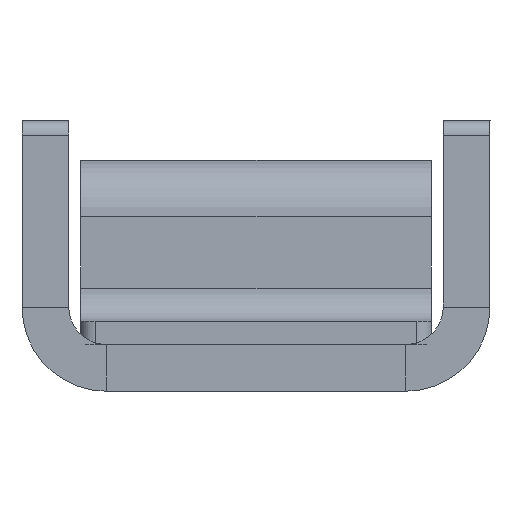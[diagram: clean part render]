
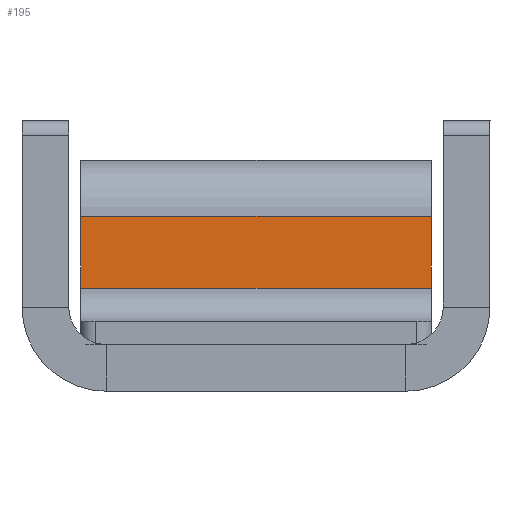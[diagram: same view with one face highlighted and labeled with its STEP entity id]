
A CAD part, left-side view. The second image highlights one B-rep face of the part: STEP entity #195.
In plain terms, the highlighted planar face has unit normal (-1, 0, 0).
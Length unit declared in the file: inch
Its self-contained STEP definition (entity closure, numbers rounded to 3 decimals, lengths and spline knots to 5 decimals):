
#3 = EDGE_LOOP ( 'NONE', ( #1297, #2069, #736, #1453 ) ) ;
#6 = VERTEX_POINT ( 'NONE', #2021 ) ;
#120 = DIRECTION ( 'NONE',  ( 0., 0., -1. ) ) ;
#134 = VECTOR ( 'NONE', #120, 39.37008 ) ;
#195 = ADVANCED_FACE ( 'NONE', ( #288 ), #245, .F. ) ;
#245 = PLANE ( 'NONE',  #333 ) ;
#288 = FACE_OUTER_BOUND ( 'NONE', #3, .T. ) ;
#333 = AXIS2_PLACEMENT_3D ( 'NONE', #780, #2075, #976 ) ;
#346 = EDGE_CURVE ( 'NONE', #1038, #517, #875, .T. ) ;
#489 = CARTESIAN_POINT ( 'NONE',  ( -2.735, 0.375, 0.27375 ) ) ;
#517 = VERTEX_POINT ( 'NONE', #537 ) ;
#537 = CARTESIAN_POINT ( 'NONE',  ( -2.735, 0.375, 0.12 ) ) ;
#639 = CARTESIAN_POINT ( 'NONE',  ( -2.735, -0.375, 0.27375 ) ) ;
#736 = ORIENTED_EDGE ( 'NONE', *, *, #2226, .F. ) ;
#780 = CARTESIAN_POINT ( 'NONE',  ( -2.735, 0.375, 0.34375 ) ) ;
#875 = LINE ( 'NONE', #1554, #134 ) ;
#976 = DIRECTION ( 'NONE',  ( 0., 0., 1. ) ) ;
#1038 = VERTEX_POINT ( 'NONE', #489 ) ;
#1251 = LINE ( 'NONE', #639, #1429 ) ;
#1297 = ORIENTED_EDGE ( 'NONE', *, *, #1305, .F. ) ;
#1305 = EDGE_CURVE ( 'NONE', #1952, #517, #1400, .T. ) ;
#1309 = VECTOR ( 'NONE', #1334, 39.37008 ) ;
#1327 = CARTESIAN_POINT ( 'NONE',  ( -2.735, -0.375, 0.34375 ) ) ;
#1334 = DIRECTION ( 'NONE',  ( 0., 0., 1. ) ) ;
#1392 = DIRECTION ( 'NONE',  ( 0., -1., 0. ) ) ;
#1400 = LINE ( 'NONE', #1905, #1882 ) ;
#1429 = VECTOR ( 'NONE', #1392, 39.37008 ) ;
#1432 = LINE ( 'NONE', #1327, #1309 ) ;
#1453 = ORIENTED_EDGE ( 'NONE', *, *, #346, .T. ) ;
#1545 = CARTESIAN_POINT ( 'NONE',  ( -2.735, -0.375, 0.12 ) ) ;
#1554 = CARTESIAN_POINT ( 'NONE',  ( -2.735, 0.375, 0.34375 ) ) ;
#1882 = VECTOR ( 'NONE', #2054, 39.37008 ) ;
#1905 = CARTESIAN_POINT ( 'NONE',  ( -2.735, -0.375, 0.12 ) ) ;
#1952 = VERTEX_POINT ( 'NONE', #1545 ) ;
#2021 = CARTESIAN_POINT ( 'NONE',  ( -2.735, -0.375, 0.27375 ) ) ;
#2054 = DIRECTION ( 'NONE',  ( 0., 1., 0. ) ) ;
#2069 = ORIENTED_EDGE ( 'NONE', *, *, #2123, .T. ) ;
#2075 = DIRECTION ( 'NONE',  ( 1., 0., 0. ) ) ;
#2123 = EDGE_CURVE ( 'NONE', #1952, #6, #1432, .T. ) ;
#2226 = EDGE_CURVE ( 'NONE', #1038, #6, #1251, .T. ) ;
